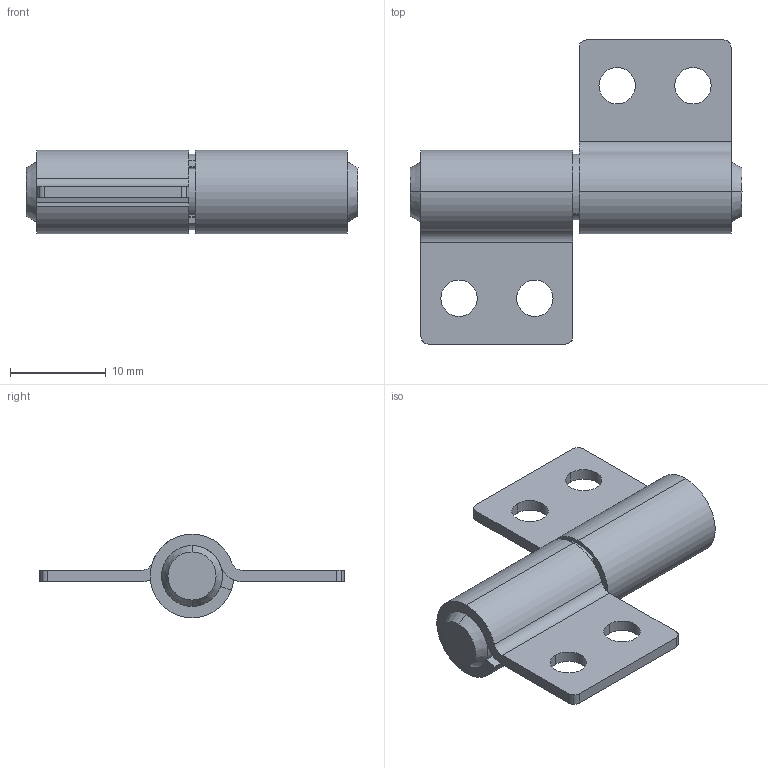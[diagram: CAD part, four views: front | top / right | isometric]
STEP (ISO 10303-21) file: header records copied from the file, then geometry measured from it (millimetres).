
FILE_DESCRIPTION(('STEP AP214'),'1');
FILE_NAME('C:/Users/HAN/Desktop/2000-0001-HNG L Rev 0_0.stp','2012-12-04T03:59:54',(' '),(' '),'Spatial InterOp 3D',' ',' ');
FILE_SCHEMA(('automotive_design'));
Length unit declared in the file: inch
Products named in the file (4): 2000-0001-BND Rev 0_0; 2000-0002-SHA Rev 0_0; Snap Ring 2000-25
Bounding box: 34.67 x 31.75 x 8.75 mm (x, y, z)
Volume: 2332.3 mm3; surface area: 3160.6 mm2
Topology: 4 solids, 4 shells, 76 faces, 194 edges, 128 vertices
Faces by surface type: cylinder 48, plane 24, cone 4
Entity records: 3031 total; most frequent: DIRECTION 454, CARTESIAN_POINT 402, ORIENTED_EDGE 388, EDGE_CURVE 194, AXIS2_PLACEMENT_3D 180, VERTEX_POINT 128, CIRCLE 100, LINE 94
